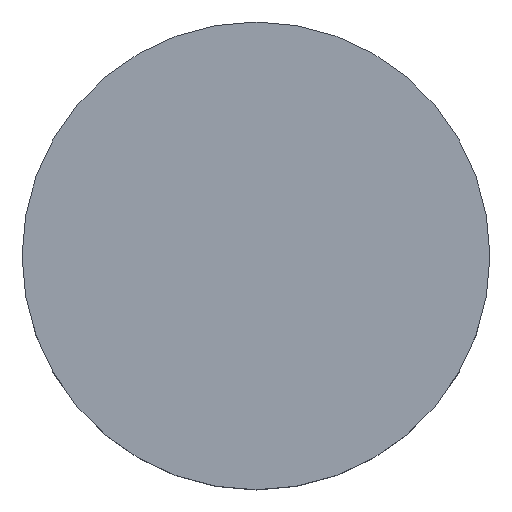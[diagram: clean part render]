
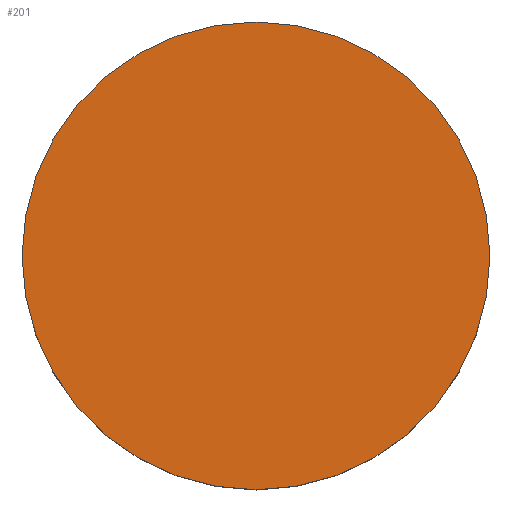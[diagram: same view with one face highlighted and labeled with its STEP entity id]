
A CAD part, top view. The second image highlights one B-rep face of the part: STEP entity #201.
In plain terms, the highlighted planar face has unit normal (0, 0, 1).
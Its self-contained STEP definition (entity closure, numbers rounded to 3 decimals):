
#201=ADVANCED_FACE('',(#257),#244,.T.);
#244=PLANE('',#710);
#257=FACE_OUTER_BOUND('',#289,.T.);
#289=EDGE_LOOP('',(#343,#344));
#343=ORIENTED_EDGE('',*,*,#565,.F.);
#344=ORIENTED_EDGE('',*,*,#566,.F.);
#511=VERTEX_POINT('',#1041);
#512=VERTEX_POINT('',#1042);
#565=EDGE_CURVE('',#511,#512,#649,.T.);
#566=EDGE_CURVE('',#512,#511,#650,.T.);
#649=CIRCLE('',#708,9.5);
#650=CIRCLE('',#709,9.5);
#708=AXIS2_PLACEMENT_3D('',#1040,#811,#812);
#709=AXIS2_PLACEMENT_3D('',#1043,#813,#814);
#710=AXIS2_PLACEMENT_3D('',#1044,#815,#816);
#811=DIRECTION('',(0.,0.,-1.));
#812=DIRECTION('',(0.,1.,0.));
#813=DIRECTION('',(0.,0.,-1.));
#814=DIRECTION('',(0.,-1.,0.));
#815=DIRECTION('',(0.,0.,1.));
#816=DIRECTION('',(0.,-1.,0.));
#1040=CARTESIAN_POINT('',(0.,0.,5.));
#1041=CARTESIAN_POINT('',(9.5,0.,5.));
#1042=CARTESIAN_POINT('',(-9.5,0.,5.));
#1043=CARTESIAN_POINT('',(0.,0.,5.));
#1044=CARTESIAN_POINT('',(0.,0.,5.));
